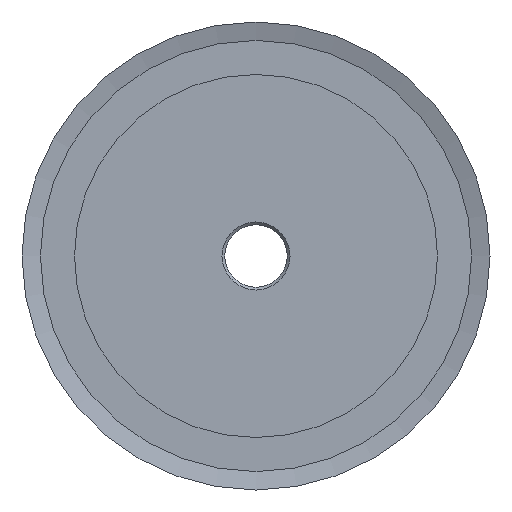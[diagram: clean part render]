
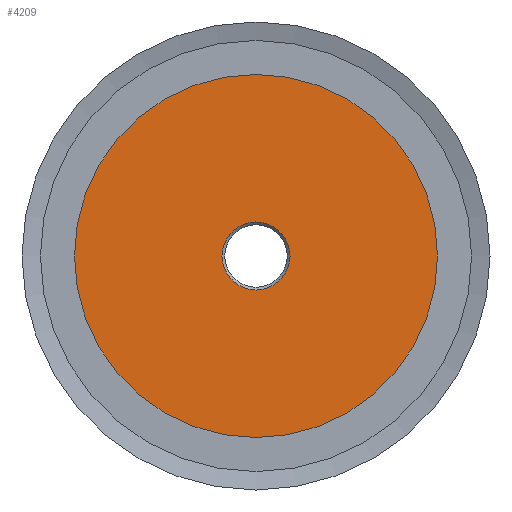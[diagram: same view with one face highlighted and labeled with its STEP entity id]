
A CAD part, left-side view. The second image highlights one B-rep face of the part: STEP entity #4209.
In plain terms, the highlighted planar face has unit normal (-1, 0, 0).
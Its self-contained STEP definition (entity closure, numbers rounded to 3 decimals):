
#38=FACE_BOUND('',#550,.T.);
#120=PLANE('',#4748);
#329=FACE_OUTER_BOUND('',#549,.T.);
#549=EDGE_LOOP('',(#3622));
#550=EDGE_LOOP('',(#3623));
#1546=CIRCLE('',#4747,6.);
#1547=CIRCLE('',#4749,32.);
#1966=VERTEX_POINT('',#7347);
#1967=VERTEX_POINT('',#7351);
#2587=EDGE_CURVE('',#1966,#1966,#1546,.T.);
#2588=EDGE_CURVE('',#1967,#1967,#1547,.T.);
#3622=ORIENTED_EDGE('',*,*,#2588,.F.);
#3623=ORIENTED_EDGE('',*,*,#2587,.T.);
#4209=ADVANCED_FACE('',(#329,#38),#120,.T.);
#4747=AXIS2_PLACEMENT_3D('',#7349,#6052,#6053);
#4748=AXIS2_PLACEMENT_3D('',#7350,#6054,#6055);
#4749=AXIS2_PLACEMENT_3D('',#7352,#6056,#6057);
#6052=DIRECTION('center_axis',(1.,0.,0.));
#6053=DIRECTION('ref_axis',(0.,0.,-1.));
#6054=DIRECTION('center_axis',(-1.,0.,0.));
#6055=DIRECTION('ref_axis',(0.,0.,1.));
#6056=DIRECTION('center_axis',(1.,0.,0.));
#6057=DIRECTION('ref_axis',(0.,0.,-1.));
#7347=CARTESIAN_POINT('',(0.,-6.,0.));
#7349=CARTESIAN_POINT('Origin',(0.,0.,0.));
#7350=CARTESIAN_POINT('Origin',(0.,32.,0.));
#7351=CARTESIAN_POINT('',(0.,-32.,0.));
#7352=CARTESIAN_POINT('Origin',(0.,0.,0.));
